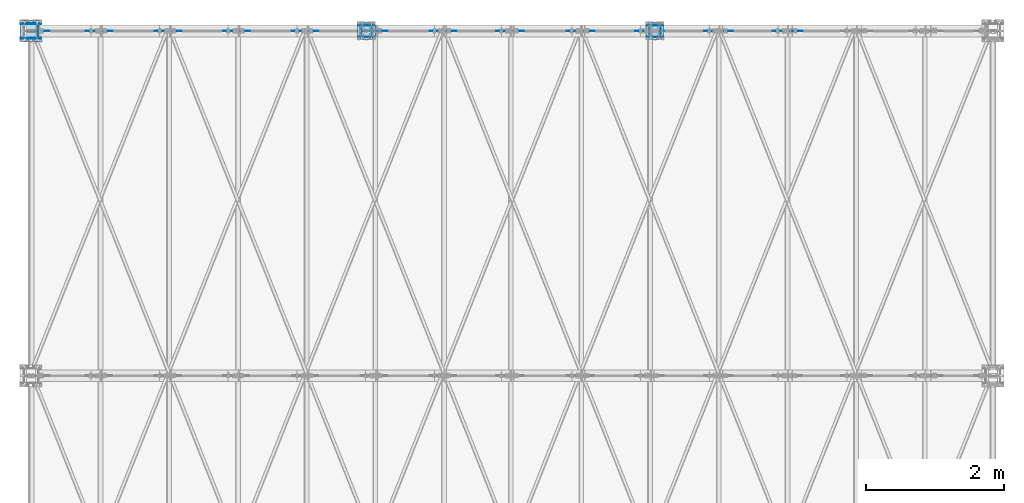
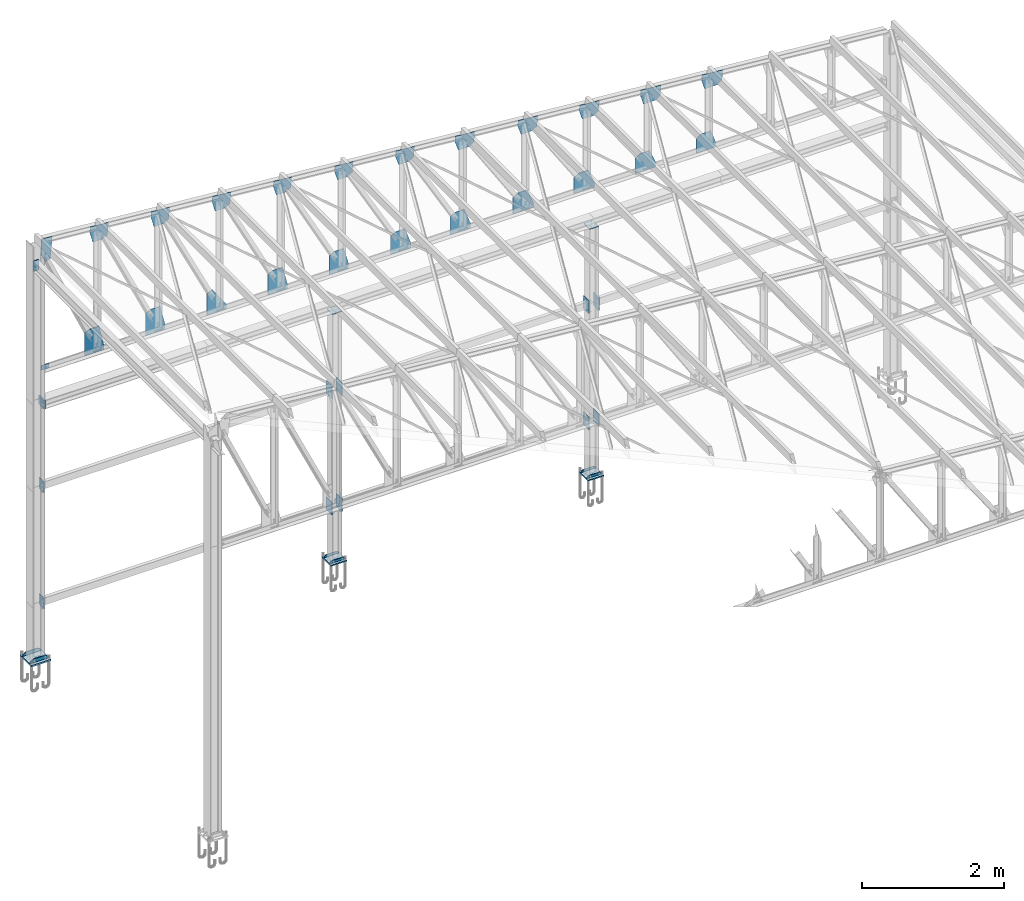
# One storey, part 9 of 251: 47 plates.
"""IFC4 building model written with IfcOpenShell, lengths in metres."""

import ifcopenshell
import ifcopenshell.guid

model = None  # the IFC model being written
_history = None  # IfcOwnerHistory: only IFC2X3 demands one
_inside = {}  # id of a spatial element -> (the spatial element, [elements in it])
_under = {}  # id of a project, library or spatial element -> (it, [spatial elements below it])
_declared = {}  # id of a project -> (the project, [libraries it declares])
_typed = {}  # id of a type object -> (the type object, [elements of that type])
_made_of = {}  # id of a material, layer set ... -> (it, [elements and type objects made of it])


def new_model(schema):
    """Start an empty IFC model of exactly this schema.

    Asked for "IFC4X3", IfcOpenShell would pick the latest addendum, in which some entities
    have other attributes; the version numbers below select the first issue.
    IFC2X3 requires an IfcOwnerHistory on every rooted entity: one is made here for all.
    """
    global model, _history
    if schema == "IFC4X3":
        model = ifcopenshell.file(schema_version=(4, 3, 0, 0))
    else:
        model = ifcopenshell.file(schema=schema)
    _inside.clear()
    _under.clear()
    _declared.clear()
    _typed.clear()
    _made_of.clear()
    _history = None
    if model.schema == "IFC2X3":
        org = make("IfcOrganization", Name="unknown")
        user = make(
            "IfcPersonAndOrganization",
            ThePerson=make("IfcPerson", FamilyName="unknown"),
            TheOrganization=org,
        )
        app = make(
            "IfcApplication",
            ApplicationDeveloper=org,
            Version="unknown",
            ApplicationFullName="unknown",
            ApplicationIdentifier="unknown",
        )
        _history = make(
            "IfcOwnerHistory",
            OwningUser=user,
            OwningApplication=app,
            ChangeAction="ADDED",
            CreationDate=0,
        )
    return model


def make(cls, **values):
    """One entity of the class cls with the attributes given. An attribute that is None is left unset."""
    return model.create_entity(
        cls, **{name: value for name, value in values.items() if value is not None}
    )


def rooted(cls, **values):
    """An entity with a GlobalId (a new one), such as an element, a storey or a relation."""
    return make(cls, GlobalId=ifcopenshell.guid.new(), OwnerHistory=_history, **values)


def si_unit(unit_type, name, prefix=None):
    """IfcSIUnit, for example si_unit("LENGTHUNIT", "METRE", prefix="MILLI")."""
    return make("IfcSIUnit", UnitType=unit_type, Prefix=prefix, Name=name)


def assignment(units):
    """IfcUnitAssignment: the units of a project."""
    return None if units is None else make("IfcUnitAssignment", Units=units)


def point(xyz):
    """IfcCartesianPoint."""
    return None if xyz is None else make("IfcCartesianPoint", Coordinates=xyz)


def direction(xyz):
    """IfcDirection."""
    return None if xyz is None else make("IfcDirection", DirectionRatios=xyz)


def frame(location, z_axis=None, x_axis=None):
    """IfcAxis2Placement3D, a coordinate frame: its origin and axes. An axis left out is left unset."""
    return make(
        "IfcAxis2Placement3D",
        Location=point(location),
        Axis=direction(z_axis),
        RefDirection=direction(x_axis),
    )


def origin_with_axes():
    """The frame at (0, 0, 0) with the z axis (0, 0, 1) and the x axis (1, 0, 0) written out."""
    return frame((0.0, 0.0, 0.0), z_axis=(0.0, 0.0, 1.0), x_axis=(1.0, 0.0, 0.0))


def place(relative_to, where):
    """IfcLocalPlacement: puts the frame where relative to a parent placement (None: the world)."""
    return make(
        "IfcLocalPlacement", PlacementRelTo=relative_to, RelativePlacement=where
    )


def context(
    kind, dimensions, precision=None, world=None, true_north=None, identifier=None
):
    """IfcGeometricRepresentationContext, for example the 3D "Model" context."""
    return make(
        "IfcGeometricRepresentationContext",
        ContextIdentifier=identifier,
        ContextType=kind,
        CoordinateSpaceDimension=dimensions,
        Precision=precision,
        WorldCoordinateSystem=world,
        TrueNorth=true_north,
    )


def project(units=None, contexts=None):
    """IfcProject with its units and contexts."""
    return rooted(
        "IfcProject",
        Name="project",
        RepresentationContexts=contexts,
        UnitsInContext=assignment(units),
    )


def spatial(cls, under=None, at=None, **own):
    """A site, building, storey or space (cls), placed at a placement, below another one or the project."""
    s = rooted(cls, ObjectPlacement=at, **own)
    if under is not None:
        _under.setdefault(under.id(), (under, []))[1].append(s)
    return s


def polyline(points):
    """IfcPolyline through the points."""
    return make("IfcPolyline", Points=[point(p) for p in points])


def outline(outer, holes=None, kind="AREA"):
    """IfcArbitraryClosedProfileDef: a profile drawn as a closed curve; with holes, ...WithVoids."""
    if holes is None:
        return make("IfcArbitraryClosedProfileDef", ProfileType=kind, OuterCurve=outer)
    return make(
        "IfcArbitraryProfileDefWithVoids",
        ProfileType=kind,
        OuterCurve=outer,
        InnerCurves=holes,
    )


def extrude(swept, where, along, depth):
    """IfcExtrudedAreaSolid: the profile swept, set in the frame where, extruded along a direction by depth."""
    return make(
        "IfcExtrudedAreaSolid",
        SweptArea=swept,
        Position=where,
        ExtrudedDirection=direction(along),
        Depth=depth,
    )


def shape(context_of_items, identifier, shape_type, items):
    """IfcShapeRepresentation: the items that make up one representation, for example the "Body"."""
    return make(
        "IfcShapeRepresentation",
        ContextOfItems=context_of_items,
        RepresentationIdentifier=identifier,
        RepresentationType=shape_type,
        Items=items,
    )


def made_of(thing, what):
    """Note that an element or type object is made of a material, layer set ...; save() writes the relation."""
    if what is not None:
        _made_of.setdefault(what.id(), (what, []))[1].append(thing)
    return thing


def type_object(cls, material=None, **own):
    """A type object (cls), such as IfcWallType, which elements share."""
    return made_of(rooted(cls, **own), material)


def element(
    cls,
    number,
    at=None,
    inside=None,
    cuts=None,
    type_object=None,
    material=None,
    context=None,
    identifier="Body",
    shape_type=None,
    held_by="IfcProductDefinitionShape",
    body=None,
    shapes=None,
    **own,
):
    """One element of the class cls, such as IfcWall. Its Tag is "e" and its number.

    at: its placement. inside: the storey or other place that contains it. cuts: it is an
    opening in that element (IfcRelVoidsElement). A single representation is given by context,
    identifier, shape_type and body (its items); several are given by shapes. held_by: the class
    of the entity that holds the representations. save() writes the other relations.
    """
    e = rooted(cls, Tag="e%d" % number, ObjectPlacement=at, **own)
    if body is not None:
        shapes = [shape(context, identifier, shape_type, body)]
    if shapes is not None:
        e.Representation = make(held_by, Representations=shapes)
    if inside is not None:
        _inside.setdefault(inside.id(), (inside, []))[1].append(e)
    if cuts is not None:
        rooted(
            "IfcRelVoidsElement", RelatingBuildingElement=cuts, RelatedOpeningElement=e
        )
    if type_object is not None:
        _typed.setdefault(type_object.id(), (type_object, []))[1].append(e)
    return made_of(e, material)


def aggregate(whole, parts):
    """IfcRelAggregates: a whole, such as a stair, and the parts it consists of."""
    return rooted("IfcRelAggregates", RelatingObject=whole, RelatedObjects=parts)


def save(model, path):
    """Write the relations noted so far, then the file.

    IfcRelAggregates (storeys below a building ...), IfcRelContainedInSpatialStructure (elements
    in a storey), IfcRelDefinesByType, IfcRelAssociatesMaterial and IfcRelDeclares: one each for
    every whole, place, type object, material and project.
    """
    for whole, parts in _under.values():
        aggregate(whole, parts)
    for where, things in _inside.values():
        rooted(
            "IfcRelContainedInSpatialStructure",
            RelatedElements=things,
            RelatingStructure=where,
        )
    for kind, things in _typed.values():
        rooted("IfcRelDefinesByType", RelatedObjects=things, RelatingType=kind)
    for what, things in _made_of.values():
        rooted("IfcRelAssociatesMaterial", RelatedObjects=things, RelatingMaterial=what)
    for by, libraries in _declared.values():
        rooted("IfcRelDeclares", RelatingContext=by, RelatedDefinitions=libraries)
    model.write(path)


model = new_model("IFC4")

# Units and contexts
model_context = context("Model", 3, precision=1e-05, world=origin_with_axes())
ifc_project = project(units=[si_unit("LENGTHUNIT", "METRE"), si_unit("AREAUNIT", "SQUARE_METRE"), si_unit("VOLUMEUNIT", "CUBIC_METRE"), si_unit("MASSUNIT", "GRAM", prefix="KILO"), si_unit("TIMEUNIT", "SECOND"), si_unit("PLANEANGLEUNIT", "RADIAN"), si_unit("SOLIDANGLEUNIT", "STERADIAN"), si_unit("THERMODYNAMICTEMPERATUREUNIT", "DEGREE_CELSIUS")], contexts=[model_context])

# Site, building, storey
placement_1 = place(None, origin_with_axes())
site = spatial("IfcSite", under=ifc_project, at=placement_1, Name="Italia", CompositionType="ELEMENT")
building = spatial("IfcBuilding", under=site, at=placement_1, Name="Deposito", CompositionType="ELEMENT")
storey = spatial("IfcBuildingStorey", under=building, at=placement_1, Name="Storey 0", CompositionType="ELEMENT", Elevation=0.0)

# Plates
plate_type_1 = type_object("IfcPlateType", Name="Collegamenti -005_-006 -008_-007 -013_-014 -016_-015", PredefinedType="SHEET")
placement_2 = place(placement_1, origin_with_axes())
plate_1_placement = place(placement_2, origin_with_axes())
element("IfcPlate", 1, at=plate_1_placement, inside=storey, type_object=plate_type_1, Name="Collegamenti -005_-006 -008_-007 -013_-014 -016_-015", context=model_context, shape_type="SweptSolid", body=[
    extrude(outline(polyline([(0.0, 0.0), (-0.132, 0.0), (-0.132, 0.192), (0.0, 0.192), (0.0, 0.0)])), frame((6.155, 19.934, 0.904), z_axis=(-1.0, 0.0, 0.0), x_axis=(0.0, -1.0, 0.0)), (0.0, 0.0, 1.0), 0.0100002),
])
plate_type_2 = type_object("IfcPlateType", Name="Collegamenti -005_-006 -008_-007 -013_-014 -016_-015", PredefinedType="SHEET")
plate_2_placement = place(placement_2, origin_with_axes())
element("IfcPlate", 2, at=plate_2_placement, inside=storey, type_object=plate_type_2, Name="Collegamenti -005_-006 -008_-007 -013_-014 -016_-015", context=model_context, shape_type="SweptSolid", body=[
    extrude(outline(polyline([(0.0, 0.0), (-0.132, 0.0), (-0.132, 0.192), (0.0, 0.192), (0.0, 0.0)])), frame((6.155, 19.934, 2.904), z_axis=(-1.0, 0.0, 0.0), x_axis=(0.0, -1.0, 0.0)), (0.0, 0.0, 1.0), 0.0100002),
])
plate_type_3 = type_object("IfcPlateType", Name="Collegamenti -006_-005 -006_-007 -007_-006 -007_-008 -014_-013 -014_-015 -015_-014 -015_-016", PredefinedType="SHEET")
plate_3_placement = place(placement_2, origin_with_axes())
element("IfcPlate", 3, at=plate_3_placement, inside=storey, type_object=plate_type_3, Name="Collegamenti -006_-005 -006_-007 -007_-006 -007_-008 -014_-013 -014_-015 -015_-014 -015_-016", context=model_context, shape_type="SweptSolid", body=[
    extrude(outline(polyline([(0.0, 0.0), (-0.16, 0.0), (-0.16, 0.22), (0.0, 0.22), (0.0, 0.0)])), frame((10.829, 20.08, 0.89), z_axis=(1.0, 0.0, 0.0), x_axis=(0.0, 1.0, 0.0)), (0.0, 0.0, 1.0), 0.0100002),
])
plate_type_4 = type_object("IfcPlateType", Name="Collegamenti -006_-005 -006_-007 -007_-006 -007_-008 -014_-013 -014_-015 -015_-014 -015_-016", PredefinedType="SHEET")
plate_4_placement = place(placement_2, origin_with_axes())
element("IfcPlate", 4, at=plate_4_placement, inside=storey, type_object=plate_type_4, Name="Collegamenti -006_-005 -006_-007 -007_-006 -007_-008 -014_-013 -014_-015 -015_-014 -015_-016", context=model_context, shape_type="SweptSolid", body=[
    extrude(outline(polyline([(0.0, 0.0), (-0.16, 0.0), (-0.16, 0.22), (0.0, 0.22), (0.0, 0.0)])), frame((11.001, 19.92, 0.89), z_axis=(-1.0, 0.0, 0.0), x_axis=(0.0, -1.0, 0.0)), (0.0, 0.0, 1.0), 0.0100002),
])
plate_type_5 = type_object("IfcPlateType", Name="Collegamenti -006_-005 -006_-007 -007_-006 -007_-008 -014_-013 -014_-015 -015_-014 -015_-016", PredefinedType="SHEET")
plate_5_placement = place(placement_2, origin_with_axes())
element("IfcPlate", 5, at=plate_5_placement, inside=storey, type_object=plate_type_5, Name="Collegamenti -006_-005 -006_-007 -007_-006 -007_-008 -014_-013 -014_-015 -015_-014 -015_-016", context=model_context, shape_type="SweptSolid", body=[
    extrude(outline(polyline([(0.0, 0.0), (-0.16, 0.0), (-0.16, 0.22), (0.0, 0.22), (0.0, 0.0)])), frame((15.014, 20.08, 0.89), z_axis=(1.0, 0.0, 0.0), x_axis=(0.0, 1.0, 0.0)), (0.0, 0.0, 1.0), 0.0100002),
])
plate_type_6 = type_object("IfcPlateType", Name="Collegamenti -006_-005 -006_-007 -007_-006 -007_-008 -014_-013 -014_-015 -015_-014 -015_-016", PredefinedType="SHEET")
plate_6_placement = place(placement_2, origin_with_axes())
element("IfcPlate", 6, at=plate_6_placement, inside=storey, type_object=plate_type_6, Name="Collegamenti -006_-005 -006_-007 -007_-006 -007_-008 -014_-013 -014_-015 -015_-014 -015_-016", context=model_context, shape_type="SweptSolid", body=[
    extrude(outline(polyline([(0.0, 0.0), (-0.16, 0.0), (-0.16, 0.22), (0.0, 0.22), (0.0, 0.0)])), frame((15.186, 19.92, 0.89), z_axis=(-1.0, 0.0, 0.0), x_axis=(0.0, -1.0, 0.0)), (0.0, 0.0, 1.0), 0.0100002),
])
plate_type_7 = type_object("IfcPlateType", Name="Collegamenti -006_-005 -006_-007 -007_-006 -007_-008 -014_-013 -014_-015 -015_-014 -015_-016", PredefinedType="SHEET")
plate_7_placement = place(placement_2, origin_with_axes())
element("IfcPlate", 7, at=plate_7_placement, inside=storey, type_object=plate_type_7, Name="Collegamenti -006_-005 -006_-007 -007_-006 -007_-008 -014_-013 -014_-015 -015_-014 -015_-016", context=model_context, shape_type="SweptSolid", body=[
    extrude(outline(polyline([(0.0, 0.0), (-0.16, 0.0), (-0.16, 0.22), (0.0, 0.22), (0.0, 0.0)])), frame((10.829, 20.08, 2.89), z_axis=(1.0, 0.0, 0.0), x_axis=(0.0, 1.0, 0.0)), (0.0, 0.0, 1.0), 0.0100002),
])
plate_type_8 = type_object("IfcPlateType", Name="Collegamenti -006_-005 -006_-007 -007_-006 -007_-008 -014_-013 -014_-015 -015_-014 -015_-016", PredefinedType="SHEET")
plate_8_placement = place(placement_2, origin_with_axes())
element("IfcPlate", 8, at=plate_8_placement, inside=storey, type_object=plate_type_8, Name="Collegamenti -006_-005 -006_-007 -007_-006 -007_-008 -014_-013 -014_-015 -015_-014 -015_-016", context=model_context, shape_type="SweptSolid", body=[
    extrude(outline(polyline([(0.0, 0.0), (-0.16, 0.0), (-0.16, 0.22), (0.0, 0.22), (0.0, 0.0)])), frame((11.001, 19.92, 2.89), z_axis=(-1.0, 0.0, 0.0), x_axis=(0.0, -1.0, 0.0)), (0.0, 0.0, 1.0), 0.0100002),
])
plate_type_9 = type_object("IfcPlateType", Name="Collegamenti -006_-005 -006_-007 -007_-006 -007_-008 -014_-013 -014_-015 -015_-014 -015_-016", PredefinedType="SHEET")
plate_9_placement = place(placement_2, origin_with_axes())
element("IfcPlate", 9, at=plate_9_placement, inside=storey, type_object=plate_type_9, Name="Collegamenti -006_-005 -006_-007 -007_-006 -007_-008 -014_-013 -014_-015 -015_-014 -015_-016", context=model_context, shape_type="SweptSolid", body=[
    extrude(outline(polyline([(0.0, 0.0), (-0.16, 0.0), (-0.16, 0.22), (0.0, 0.22), (0.0, 0.0)])), frame((15.014, 20.08, 2.89), z_axis=(1.0, 0.0, 0.0), x_axis=(0.0, 1.0, 0.0)), (0.0, 0.0, 1.0), 0.0100002),
])
plate_type_10 = type_object("IfcPlateType", Name="Collegamenti -006_-005 -006_-007 -007_-006 -007_-008 -014_-013 -014_-015 -015_-014 -015_-016", PredefinedType="SHEET")
plate_10_placement = place(placement_2, origin_with_axes())
element("IfcPlate", 10, at=plate_10_placement, inside=storey, type_object=plate_type_10, Name="Collegamenti -006_-005 -006_-007 -007_-006 -007_-008 -014_-013 -014_-015 -015_-014 -015_-016", context=model_context, shape_type="SweptSolid", body=[
    extrude(outline(polyline([(0.0, 0.0), (-0.16, 0.0), (-0.16, 0.22), (0.0, 0.22), (0.0, 0.0)])), frame((15.186, 19.92, 2.89), z_axis=(-1.0, 0.0, 0.0), x_axis=(0.0, -1.0, 0.0)), (0.0, 0.0, 1.0), 0.0100002),
])
plate_type_11 = type_object("IfcPlateType", Name="Collegamenti -051_7075 -053_7076", PredefinedType="SHEET")
plate_11_placement = place(placement_2, origin_with_axes())
element("IfcPlate", 11, at=plate_11_placement, inside=storey, type_object=plate_type_11, Name="Collegamenti -051_7075 -053_7076", context=model_context, shape_type="SweptSolid", body=[
    extrude(outline(polyline([(0.0, 0.0), (-0.16, 0.0), (-0.16, 0.152), (0.0, 0.152), (0.0, 0.0)])), frame((6.165, 19.92, 4.348), z_axis=(-1.0, 0.0, 0.0), x_axis=(0.0, -1.0, 0.0)), (0.0, 0.0, 1.0), 0.02),
])
plate_type_12 = type_object("IfcPlateType", Name="Collegamento -073_-072", PredefinedType="SHEET")
plate_12_placement = place(placement_2, origin_with_axes())
element("IfcPlate", 12, at=plate_12_placement, inside=storey, type_object=plate_type_12, Name="Collegamento -073_-072", context=model_context, shape_type="SweptSolid", body=[
    extrude(outline(polyline([(0.0, 0.0), (-0.0909996, 0.0), (-0.0909996, 0.18), (0.0, 0.18), (0.0, 0.0)])), frame((6.0045, 19.982, 6.73018), z_axis=(0.0, 1.0, 0.0), x_axis=(-1.0, 0.0, 0.0)), (0.0, 0.0, 1.0), 0.0149994),
])
plate_type_13 = type_object("IfcPlateType", Name="Collegamenti 0014_-001 0016_-054 0018_-056 0032_-002 0033_-058 0047_-003 0048_-060 0062_-004 0063_-005 0079_-008", PredefinedType="SHEET")
plate_13_placement = place(placement_2, origin_with_axes())
element("IfcPlate", 13, at=plate_13_placement, inside=storey, type_object=plate_type_13, Name="Collegamenti 0014_-001 0016_-054 0018_-056 0032_-002 0033_-058 0047_-003 0048_-060 0062_-004 0063_-005 0079_-008", context=model_context, shape_type="SweptSolid", body=[
    extrude(outline(polyline([(0.0, 0.0), (0.32, 0.0), (0.32, -0.32), (0.0, -0.32), (0.0, 0.0)])), frame((6.21, 19.84, 0.075), z_axis=(0.0, 0.0, -1.0), x_axis=(0.0, 1.0, 0.0)), (0.0, 0.0, 1.0), 0.025),
])
plate_type_14 = type_object("IfcPlateType", Name="Collegamenti 0014_-001 0016_-054 0018_-056 0032_-002 0033_-058 0047_-003 0048_-060 0062_-004 0063_-005 0079_-008", PredefinedType="SHEET")
plate_14_placement = place(placement_2, origin_with_axes())
element("IfcPlate", 14, at=plate_14_placement, inside=storey, type_object=plate_type_14, Name="Collegamenti 0014_-001 0016_-054 0018_-056 0032_-002 0033_-058 0047_-003 0048_-060 0062_-004 0063_-005 0079_-008", context=model_context, shape_type="SweptSolid", body=[
    extrude(outline(polyline([(0.0, 0.0), (0.0550003, 0.04), (0.244999, 0.04), (0.299999, 0.0), (0.299999, -0.02), (0.0, -0.02), (0.0, 0.0)])), frame((6.2, 20.1, 0.095), z_axis=(0.0, 1.0, 0.0), x_axis=(-1.0, 0.0, 0.0)), (0.0, 0.0, 1.0), 0.0100002),
])
plate_type_15 = type_object("IfcPlateType", Name="Collegamenti 0014_-001 0016_-054 0018_-056 0032_-002 0033_-058 0047_-003 0048_-060 0062_-004 0063_-005 0079_-008", PredefinedType="SHEET")
plate_15_placement = place(placement_2, origin_with_axes())
element("IfcPlate", 15, at=plate_15_placement, inside=storey, type_object=plate_type_15, Name="Collegamenti 0014_-001 0016_-054 0018_-056 0032_-002 0033_-058 0047_-003 0048_-060 0062_-004 0063_-005 0079_-008", context=model_context, shape_type="SweptSolid", body=[
    extrude(outline(polyline([(0.0, 0.0), (0.0550003, 0.04), (0.244999, 0.04), (0.299999, 0.0), (0.299999, -0.02), (0.0, -0.02), (0.0, 0.0)])), frame((6.2, 19.89, 0.095), z_axis=(0.0, 1.0, 0.0), x_axis=(-1.0, 0.0, 0.0)), (0.0, 0.0, 1.0), 0.0100002),
])
plate_type_16 = type_object("IfcPlateType", Name="Collegamenti 0068_-006 0074_-007", PredefinedType="SHEET")
plate_16_placement = place(placement_2, origin_with_axes())
element("IfcPlate", 16, at=plate_16_placement, inside=storey, type_object=plate_type_16, Name="Collegamenti 0068_-006 0074_-007", context=model_context, shape_type="SweptSolid", body=[
    extrude(outline(polyline([(0.0, 0.0), (0.259998, 0.0), (0.259998, -0.257999), (0.0, -0.257999), (0.0, 0.0)])), frame((11.044, 19.87, 0.07), z_axis=(0.0, 0.0, -1.0), x_axis=(0.0, 1.0, 0.0)), (0.0, 0.0, 1.0), 0.02),
])
plate_type_17 = type_object("IfcPlateType", Name="Collegamenti 0068_-006 0074_-007", PredefinedType="SHEET")
plate_17_placement = place(placement_2, origin_with_axes())
element("IfcPlate", 17, at=plate_17_placement, inside=storey, type_object=plate_type_17, Name="Collegamenti 0068_-006 0074_-007", context=model_context, shape_type="SweptSolid", body=[
    extrude(outline(polyline([(0.0, 0.0), (0.0430002, 0.02), (0.195001, 0.02), (0.238001, 0.0), (0.238001, -0.02), (0.0, -0.02), (0.0, 0.0)])), frame((11.034, 20.08, 0.09), z_axis=(0.0, 1.0, 0.0), x_axis=(-1.0, 0.0, 0.0)), (0.0, 0.0, 1.0), 0.0100002),
])
plate_type_18 = type_object("IfcPlateType", Name="Collegamenti 0068_-006 0074_-007", PredefinedType="SHEET")
plate_18_placement = place(placement_2, origin_with_axes())
element("IfcPlate", 18, at=plate_18_placement, inside=storey, type_object=plate_type_18, Name="Collegamenti 0068_-006 0074_-007", context=model_context, shape_type="SweptSolid", body=[
    extrude(outline(polyline([(0.0, 0.0), (0.0430002, 0.02), (0.195001, 0.02), (0.238001, 0.0), (0.238001, -0.02), (0.0, -0.02), (0.0, 0.0)])), frame((11.034, 19.91, 0.09), z_axis=(0.0, 1.0, 0.0), x_axis=(-1.0, 0.0, 0.0)), (0.0, 0.0, 1.0), 0.0100002),
])
plate_type_19 = type_object("IfcPlateType", Name="Collegamenti 0068_-006 0074_-007", PredefinedType="SHEET")
plate_19_placement = place(placement_2, origin_with_axes())
element("IfcPlate", 19, at=plate_19_placement, inside=storey, type_object=plate_type_19, Name="Collegamenti 0068_-006 0074_-007", context=model_context, shape_type="SweptSolid", body=[
    extrude(outline(polyline([(0.0, 0.0), (0.259998, 0.0), (0.259998, -0.257999), (0.0, -0.257999), (0.0, 0.0)])), frame((15.229, 19.87, 0.07), z_axis=(0.0, 0.0, -1.0), x_axis=(0.0, 1.0, 0.0)), (0.0, 0.0, 1.0), 0.02),
])
plate_type_20 = type_object("IfcPlateType", Name="Collegamenti 0068_-006 0074_-007", PredefinedType="SHEET")
plate_20_placement = place(placement_2, origin_with_axes())
element("IfcPlate", 20, at=plate_20_placement, inside=storey, type_object=plate_type_20, Name="Collegamenti 0068_-006 0074_-007", context=model_context, shape_type="SweptSolid", body=[
    extrude(outline(polyline([(0.0, 0.0), (0.0430002, 0.02), (0.195001, 0.02), (0.238001, 0.0), (0.238001, -0.02), (0.0, -0.02), (0.0, 0.0)])), frame((15.219, 20.08, 0.09), z_axis=(0.0, 1.0, 0.0), x_axis=(-1.0, 0.0, 0.0)), (0.0, 0.0, 1.0), 0.0100002),
])
plate_type_21 = type_object("IfcPlateType", Name="Collegamenti 0068_-006 0074_-007", PredefinedType="SHEET")
plate_21_placement = place(placement_2, origin_with_axes())
element("IfcPlate", 21, at=plate_21_placement, inside=storey, type_object=plate_type_21, Name="Collegamenti 0068_-006 0074_-007", context=model_context, shape_type="SweptSolid", body=[
    extrude(outline(polyline([(0.0, 0.0), (0.0430002, 0.02), (0.195001, 0.02), (0.238001, 0.0), (0.238001, -0.02), (0.0, -0.02), (0.0, 0.0)])), frame((15.219, 19.91, 0.09), z_axis=(0.0, 1.0, 0.0), x_axis=(-1.0, 0.0, 0.0)), (0.0, 0.0, 1.0), 0.0100002),
])
plate_type_22 = type_object("IfcPlateType", Name="Collegamenti 7068_-014 7074_-015", PredefinedType="SHEET")
plate_22_placement = place(placement_2, origin_with_axes())
element("IfcPlate", 22, at=plate_22_placement, inside=storey, type_object=plate_type_22, Name="Collegamenti 7068_-014 7074_-015", context=model_context, shape_type="SweptSolid", body=[
    extrude(outline(polyline([(0.0, 0.0), (-0.16, 0.0), (-0.16, 0.152), (0.0, 0.152), (0.0, 0.0)])), frame((10.991, 20.08, 4.333), z_axis=(0.0, 0.0, 1.0), x_axis=(0.0, 1.0, 0.0)), (0.0, 0.0, 1.0), 0.0149999),
])
plate_type_23 = type_object("IfcPlateType", Name="Collegamenti 7068_-014 7074_-015", PredefinedType="SHEET")
plate_23_placement = place(placement_2, origin_with_axes())
element("IfcPlate", 23, at=plate_23_placement, inside=storey, type_object=plate_type_23, Name="Collegamenti 7068_-014 7074_-015", context=model_context, shape_type="SweptSolid", body=[
    extrude(outline(polyline([(0.0, 0.0), (-0.16, 0.0), (-0.16, 0.152), (0.0, 0.152), (0.0, 0.0)])), frame((15.176, 20.08, 4.333), z_axis=(0.0, 0.0, 1.0), x_axis=(0.0, 1.0, 0.0)), (0.0, 0.0, 1.0), 0.0149999),
])
plate_type_24 = type_object("IfcPlateType", Name="Reticolare 6", PredefinedType="SHEET")
plate_24_placement = place(placement_2, origin_with_axes())
element("IfcPlate", 24, at=plate_24_placement, inside=storey, type_object=plate_type_24, Name="Reticolare 6", context=model_context, shape_type="SweptSolid", body=[
    extrude(outline(polyline([(0.0, 0.0), (0.12105, 0.0), (0.12105, -0.0799999), (0.0, -0.0799999), (0.0, 0.0)])), frame((6.145, 20.005, 5.05748), z_axis=(0.0, -1.0, 0.0), x_axis=(1.0, 0.0, 0.0)), (0.0, 0.0, 1.0), 0.00999832),
])
plate_type_25 = type_object("IfcPlateType", Name="Reticolare 6", PredefinedType="SHEET")
plate_25_placement = place(placement_2, origin_with_axes())
element("IfcPlate", 25, at=plate_25_placement, inside=storey, type_object=plate_type_25, Name="Reticolare 6", context=model_context, shape_type="SweptSolid", body=[
    extrude(outline(polyline([(0.0, 0.0), (0.091186, 0.0410495), (0.235071, 0.0410495), (0.313554, -0.30325), (0.313554, -0.39325), (0.0, -0.39325), (0.0, 0.0)])), frame((6.84691, 20.005, 5.37073), z_axis=(0.0, -1.0, 0.0), x_axis=(1.0, 0.0, 0.0)), (0.0, 0.0, 1.0), 0.00999832),
])
plate_type_26 = type_object("IfcPlateType", Name="Reticolare 6", PredefinedType="SHEET")
plate_26_placement = place(placement_2, origin_with_axes())
element("IfcPlate", 26, at=plate_26_placement, inside=storey, type_object=plate_type_26, Name="Reticolare 6", context=model_context, shape_type="SweptSolid", body=[
    extrude(outline(polyline([(0.0, 0.0), (-0.314665, 0.0), (-0.314665, 0.381756), (-0.22406, 0.424072), (-0.0784826, 0.424072), (0.0, 0.0899997), (0.0, 0.0)])), frame((8.15666, 20.005, 4.97748), z_axis=(0.0, -1.0, 0.0), x_axis=(1.0, 0.0, 0.0)), (0.0, 0.0, 1.0), 0.00999832),
])
plate_type_27 = type_object("IfcPlateType", Name="Reticolare 6", PredefinedType="SHEET")
plate_27_placement = place(placement_2, origin_with_axes())
element("IfcPlate", 27, at=plate_27_placement, inside=storey, type_object=plate_type_27, Name="Reticolare 6", context=model_context, shape_type="SweptSolid", body=[
    extrude(outline(polyline([(0.0, 0.0), (-0.315924, 0.0), (-0.315924, 0.36909), (-0.226016, 0.412868), (0.0, 0.0899997), (0.0, 0.0)])), frame((9.15286, 20.005, 4.97748), z_axis=(0.0, -1.0, 0.0), x_axis=(1.0, 0.0, 0.0)), (0.0, 0.0, 1.0), 0.00999832),
])
plate_type_28 = type_object("IfcPlateType", Name="Reticolare 6", PredefinedType="SHEET")
plate_28_placement = place(placement_2, origin_with_axes())
element("IfcPlate", 28, at=plate_28_placement, inside=storey, type_object=plate_type_28, Name="Reticolare 6", context=model_context, shape_type="SweptSolid", body=[
    extrude(outline(polyline([(0.0, 0.0), (-0.317234, 0.0), (-0.317234, 0.356284), (-0.2281, 0.401618), (-0.0784826, 0.401618), (0.0, 0.0899997), (0.0, 0.0)])), frame((10.1491, 20.005, 4.97748), z_axis=(0.0, -1.0, 0.0), x_axis=(1.0, 0.0, 0.0)), (0.0, 0.0, 1.0), 0.00999832),
])
plate_type_29 = type_object("IfcPlateType", Name="Reticolare 6", PredefinedType="SHEET")
plate_29_placement = place(placement_2, origin_with_axes())
element("IfcPlate", 29, at=plate_29_placement, inside=storey, type_object=plate_type_29, Name="Reticolare 6", context=model_context, shape_type="SweptSolid", body=[
    extrude(outline(polyline([(0.0, 0.0), (-0.310134, 0.0), (-0.310134, 0.327425), (-0.22186, 0.374413), (-0.0784826, 0.374413), (0.0, 0.0899997), (0.0, 0.0)])), frame((11.1452, 20.005, 4.97748), z_axis=(0.0, -1.0, 0.0), x_axis=(1.0, 0.0, 0.0)), (0.0, 0.0, 1.0), 0.00999832),
])
plate_type_30 = type_object("IfcPlateType", Name="Reticolare 6", PredefinedType="SHEET")
plate_30_placement = place(placement_2, origin_with_axes())
element("IfcPlate", 30, at=plate_30_placement, inside=storey, type_object=plate_type_30, Name="Reticolare 6", context=model_context, shape_type="SweptSolid", body=[
    extrude(outline(polyline([(0.0, 0.0), (-0.329223, 0.0), (-0.329223, 0.314454), (-0.241909, 0.3632), (-0.0964823, 0.3632), (0.0, 0.0899997), (0.0, 0.0)])), frame((12.1594, 20.005, 4.97748), z_axis=(0.0, -1.0, 0.0), x_axis=(1.0, 0.0, 0.0)), (0.0, 0.0, 1.0), 0.00999832),
])
plate_type_31 = type_object("IfcPlateType", Name="Reticolare 6", PredefinedType="SHEET")
plate_31_placement = place(placement_2, origin_with_axes())
element("IfcPlate", 31, at=plate_31_placement, inside=storey, type_object=plate_type_31, Name="Reticolare 6", context=model_context, shape_type="SweptSolid", body=[
    extrude(outline(polyline([(0.0, 0.0), (-0.329739, 0.0), (-0.329739, 0.308363), (-0.242908, 0.357966), (-0.0964823, 0.357966), (0.0, 0.0899997), (0.0, 0.0)])), frame((13.129, 20.005, 4.97748), z_axis=(0.0, -1.0, 0.0), x_axis=(1.0, 0.0, 0.0)), (0.0, 0.0, 1.0), 0.00999832),
])
plate_type_32 = type_object("IfcPlateType", Name="Reticolare 6", PredefinedType="SHEET")
plate_32_placement = place(placement_2, origin_with_axes())
element("IfcPlate", 32, at=plate_32_placement, inside=storey, type_object=plate_type_32, Name="Reticolare 6", context=model_context, shape_type="SweptSolid", body=[
    extrude(outline(polyline([(0.0, 0.0), (-0.332019, 0.0), (-0.332019, 0.281458), (-0.247612, 0.33508), (-0.0964823, 0.33508), (0.0, 0.0899997), (0.0, 0.0)])), frame((14.1518, 20.005, 4.97748), z_axis=(0.0, -1.0, 0.0), x_axis=(1.0, 0.0, 0.0)), (0.0, 0.0, 1.0), 0.00999832),
])
plate_type_33 = type_object("IfcPlateType", Name="Reticolare 6", PredefinedType="SHEET")
plate_33_placement = place(placement_2, origin_with_axes())
element("IfcPlate", 33, at=plate_33_placement, inside=storey, type_object=plate_type_33, Name="Reticolare 6", context=model_context, shape_type="SweptSolid", body=[
    extrude(outline(polyline([(0.0, 0.0), (-0.332613, 0.0), (-0.332613, 0.27439), (-0.248927, 0.329132), (-0.0964823, 0.329132), (0.0, 0.0899997), (0.0, 0.0)])), frame((15.148, 20.005, 4.97748), z_axis=(0.0, -1.0, 0.0), x_axis=(1.0, 0.0, 0.0)), (0.0, 0.0, 1.0), 0.00999832),
])
plate_type_34 = type_object("IfcPlateType", Name="Reticolare 6", PredefinedType="SHEET")
plate_34_placement = place(placement_2, origin_with_axes())
element("IfcPlate", 34, at=plate_34_placement, inside=storey, type_object=plate_type_34, Name="Reticolare 6", context=model_context, shape_type="SweptSolid", body=[
    extrude(outline(polyline([(0.0, 0.0), (-0.333754, 0.0), (-0.333754, 0.260579), (-0.251593, 0.317585), (-0.0964832, 0.317585), (0.0, 0.0899997), (0.0, 0.0)])), frame((16.1442, 20.005, 4.97748), z_axis=(0.0, -1.0, 0.0), x_axis=(1.0, 0.0, 0.0)), (0.0, 0.0, 1.0), 0.00999832),
])
plate_type_35 = type_object("IfcPlateType", Name="Reticolare 6", PredefinedType="SHEET")
plate_35_placement = place(placement_2, origin_with_axes())
element("IfcPlate", 35, at=plate_35_placement, inside=storey, type_object=plate_type_35, Name="Reticolare 6", context=model_context, shape_type="SweptSolid", body=[
    extrude(outline(polyline([(0.0, 0.0), (-0.316877, 0.0), (-0.316877, 0.246499), (-0.236443, 0.305914), (-0.0784836, 0.305914), (0.0, 0.0899997), (0.0, 0.0)])), frame((17.1224, 20.005, 4.97748), z_axis=(0.0, -1.0, 0.0), x_axis=(1.0, 0.0, 0.0)), (0.0, 0.0, 1.0), 0.00999832),
])
plate_type_36 = type_object("IfcPlateType", Name="Reticolare 6", PredefinedType="SHEET")
plate_36_placement = place(placement_2, origin_with_axes())
element("IfcPlate", 36, at=plate_36_placement, inside=storey, type_object=plate_type_36, Name="Reticolare 6", context=model_context, shape_type="SweptSolid", body=[
    extrude(outline(polyline([(0.0, 0.0), (-0.0784817, -0.061976), (-0.280317, -0.061976), (-0.329294, 0.103069), (-0.321447, 0.192726), (0.0142918, 0.163353), (0.0, 0.0)])), frame((17.2242, 20.005, 6.10085), z_axis=(0.0, -1.0, 0.0), x_axis=(1.0, 0.0, 0.0)), (0.0, 0.0, 1.0), 0.00999832),
])
plate_type_37 = type_object("IfcPlateType", Name="Reticolare 6", PredefinedType="SHEET")
plate_37_placement = place(placement_2, origin_with_axes())
element("IfcPlate", 37, at=plate_37_placement, inside=storey, type_object=plate_type_37, Name="Reticolare 6", context=model_context, shape_type="SweptSolid", body=[
    extrude(outline(polyline([(0.0, 0.0), (-0.0804348, -0.0594163), (-0.271415, -0.0594163), (-0.320392, 0.104949), (-0.312547, 0.194606), (0.0145226, 0.165991), (0.0, 0.0)])), frame((16.2192, 20.005, 6.18612), z_axis=(0.0, -1.0, 0.0), x_axis=(1.0, 0.0, 0.0)), (0.0, 0.0, 1.0), 0.00999832),
])
plate_type_38 = type_object("IfcPlateType", Name="Reticolare 6", PredefinedType="SHEET")
plate_38_placement = place(placement_2, origin_with_axes())
element("IfcPlate", 38, at=plate_38_placement, inside=storey, type_object=plate_type_38, Name="Reticolare 6", context=model_context, shape_type="SweptSolid", body=[
    extrude(outline(polyline([(0.0, 0.0), (-0.0821609, -0.0570059), (-0.263537, -0.0570059), (-0.312513, 0.106635), (-0.304669, 0.196292), (0.0147285, 0.168348), (0.0, 0.0)])), frame((15.2151, 20.005, 6.27159), z_axis=(0.0, -1.0, 0.0), x_axis=(1.0, 0.0, 0.0)), (0.0, 0.0, 1.0), 0.00999832),
])
plate_type_39 = type_object("IfcPlateType", Name="Reticolare 6", PredefinedType="SHEET")
plate_39_placement = place(placement_2, origin_with_axes())
element("IfcPlate", 39, at=plate_39_placement, inside=storey, type_object=plate_type_39, Name="Reticolare 6", context=model_context, shape_type="SweptSolid", body=[
    extrude(outline(polyline([(0.0, 0.0), (-0.0149136, -0.170458), (-0.0985994, -0.2252), (-0.271422, -0.2252), (-0.325274, -0.0621495), (-0.317634, 0.0275254), (-0.196971, 0.0172324), (0.0, 0.0)])), frame((14.2268, 20.005, 6.5277), z_axis=(0.0, -1.0, 0.0), x_axis=(1.0, 0.0, 0.0)), (0.0, 0.0, 1.0), 0.00999832),
])
plate_type_40 = type_object("IfcPlateType", Name="Reticolare 6", PredefinedType="SHEET")
plate_40_placement = place(placement_2, origin_with_axes())
element("IfcPlate", 40, at=plate_40_placement, inside=storey, type_object=plate_type_40, Name="Reticolare 6", context=model_context, shape_type="SweptSolid", body=[
    extrude(outline(polyline([(0.0, 0.0), (0.313652, -0.0272665), (0.299024, -0.198937), (0.214616, -0.252559), (0.0460606, -0.252559), (-0.00805664, -0.0896382), (0.0, 0.0)])), frame((12.8865, 20.005, 6.6429), z_axis=(0.0, -1.0, 0.0), x_axis=(1.0, 0.0, 0.0)), (0.0, 0.0, 1.0), 0.00999832),
])
plate_type_41 = type_object("IfcPlateType", Name="Reticolare 6", PredefinedType="SHEET")
plate_41_placement = place(placement_2, origin_with_axes())
element("IfcPlate", 41, at=plate_41_placement, inside=storey, type_object=plate_type_41, Name="Reticolare 6", context=model_context, shape_type="SweptSolid", body=[
    extrude(outline(polyline([(0.0, 0.0), (-0.0157042, -0.174694), (-0.102534, -0.224296), (-0.257545, -0.224296), (-0.311526, -0.0626369), (-0.303682, 0.0270209), (-0.183041, 0.0164542), (0.0, 0.0)])), frame((12.2205, 20.005, 6.70277), z_axis=(0.0, -1.0, 0.0), x_axis=(1.0, 0.0, 0.0)), (0.0, 0.0, 1.0), 0.00999832),
])
plate_type_42 = type_object("IfcPlateType", Name="Reticolare 6", PredefinedType="SHEET")
plate_42_placement = place(placement_2, origin_with_axes())
element("IfcPlate", 42, at=plate_42_placement, inside=storey, type_object=plate_type_42, Name="Reticolare 6", context=model_context, shape_type="SweptSolid", body=[
    extrude(outline(polyline([(0.0, 0.0), (-0.0873137, -0.0487461), (-0.239327, -0.0487461), (-0.288303, 0.11182), (-0.280459, 0.201478), (0.0153627, 0.175597), (0.0, 0.0)])), frame((11.2061, 20.005, 6.61503), z_axis=(0.0, -1.0, 0.0), x_axis=(1.0, 0.0, 0.0)), (0.0, 0.0, 1.0), 0.00999832),
])
plate_type_43 = type_object("IfcPlateType", Name="Reticolare 6", PredefinedType="SHEET")
plate_43_placement = place(placement_2, origin_with_axes())
element("IfcPlate", 43, at=plate_43_placement, inside=storey, type_object=plate_type_43, Name="Reticolare 6", context=model_context, shape_type="SweptSolid", body=[
    extrude(outline(polyline([(0.0, 0.0), (-0.088274, -0.0469871), (-0.234612, -0.0469871), (-0.283587, 0.112811), (-0.275743, 0.202468), (0.0154839, 0.176989), (0.0, 0.0)])), frame((10.2052, 20.005, 6.70119), z_axis=(0.0, -1.0, 0.0), x_axis=(1.0, 0.0, 0.0)), (0.0, 0.0, 1.0), 0.00999832),
])
plate_type_44 = type_object("IfcPlateType", Name="Reticolare 6", PredefinedType="SHEET")
plate_44_placement = place(placement_2, origin_with_axes())
element("IfcPlate", 44, at=plate_44_placement, inside=storey, type_object=plate_type_44, Name="Reticolare 6", context=model_context, shape_type="SweptSolid", body=[
    extrude(outline(polyline([(0.0, 0.0), (0.296857, -0.0259719), (0.279883, -0.219992), (0.190749, -0.265325), (0.041132, -0.265325), (-0.00784397, -0.0896578), (0.0, 0.0)])), frame((8.93324, 20.005, 6.99082), z_axis=(0.0, -1.0, 0.0), x_axis=(1.0, 0.0, 0.0)), (0.0, 0.0, 1.0), 0.00999832),
])
plate_type_45 = type_object("IfcPlateType", Name="Reticolare 6", PredefinedType="SHEET")
plate_45_placement = place(placement_2, origin_with_axes())
element("IfcPlate", 45, at=plate_45_placement, inside=storey, type_object=plate_type_45, Name="Reticolare 6", context=model_context, shape_type="SweptSolid", body=[
    extrude(outline(polyline([(0.0, 0.0), (-0.0899067, -0.0437794), (-0.237442, -0.0437794), (-0.286417, 0.137344), (-0.278573, 0.227001), (0.0175934, 0.20109), (0.0, 0.0)])), frame((8.21562, 20.005, 6.85097), z_axis=(0.0, -1.0, 0.0), x_axis=(1.0, 0.0, 0.0)), (0.0, 0.0, 1.0), 0.00999832),
])
plate_type_46 = type_object("IfcPlateType", Name="Reticolare 6", PredefinedType="SHEET")
plate_46_placement = place(placement_2, origin_with_axes())
element("IfcPlate", 46, at=plate_46_placement, inside=storey, type_object=plate_type_46, Name="Reticolare 6", context=model_context, shape_type="SweptSolid", body=[
    extrude(outline(polyline([(0.0, 0.0), (-0.0906053, -0.0423155), (-0.236182, -0.0423155), (-0.285141, 0.144153), (-0.277323, 0.233812), (0.0181966, 0.20799), (0.0, 0.0)])), frame((7.21817, 20.005, 6.93129), z_axis=(0.0, -1.0, 0.0), x_axis=(1.0, 0.0, 0.0)), (0.0, 0.0, 1.0), 0.00999832),
])
plate_type_47 = type_object("IfcPlateType", Name="Reticolare 6", PredefinedType="SHEET")
plate_47_placement = place(placement_2, origin_with_axes())
element("IfcPlate", 47, at=plate_47_placement, inside=storey, type_object=plate_type_47, Name="Reticolare 6", context=model_context, shape_type="SweptSolid", body=[
    extrude(outline(polyline([(0.0, 0.0), (0.0100002, 0.0), (0.177141, -0.0154471), (0.145072, -0.383209), (0.063004, -0.420153), (0.0, -0.2802), (0.0, 0.0)])), frame((6.145, 20.005, 7.2345), z_axis=(0.0, -1.0, 0.0), x_axis=(1.0, 0.0, 0.0)), (0.0, 0.0, 1.0), 0.00999832),
])

save(model, "model.ifc")
